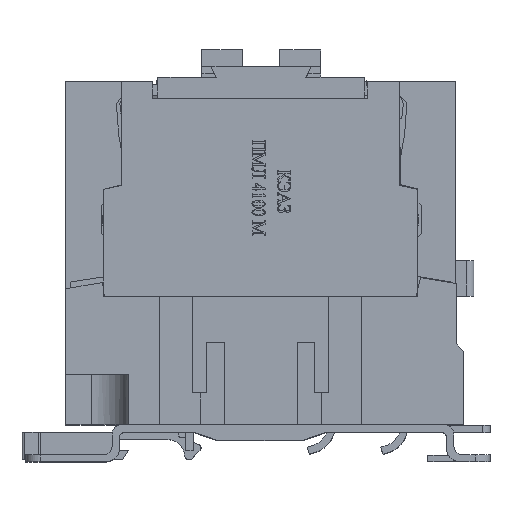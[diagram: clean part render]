
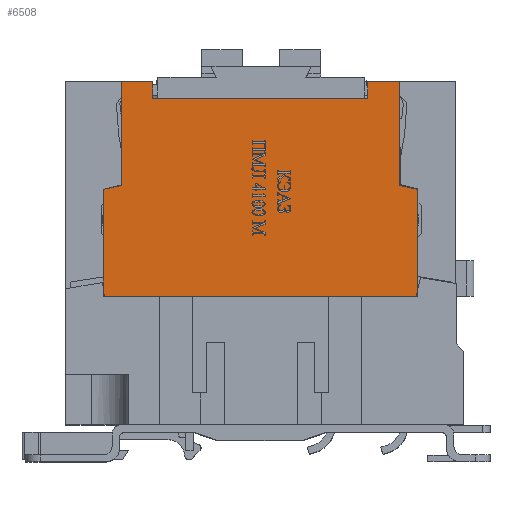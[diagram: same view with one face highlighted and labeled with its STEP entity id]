
A CAD part, top view. The second image highlights one B-rep face of the part: STEP entity #6508.
In plain terms, the highlighted planar face has unit normal (0, 0, 1).
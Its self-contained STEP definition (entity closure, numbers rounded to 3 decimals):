
#2215 = EDGE_LOOP ( 'NONE', ( #45894, #45896, #45895, #45897, #45898, #45899, #45900, #45901, #45903, #45902, #45904, #45905 ) ) ;
#5518 = VECTOR ( 'NONE', #15117, 1000. ) ;
#5588 = VECTOR ( 'NONE', #15441, 1000. ) ;
#6508 = ADVANCED_FACE ( 'NONE', ( #19148 ), #31573, .F. ) ;
#9083 = VERTEX_POINT ( 'NONE', #39651 ) ;
#9085 = VERTEX_POINT ( 'NONE', #39653 ) ;
#9088 = VERTEX_POINT ( 'NONE', #39656 ) ;
#9098 = VERTEX_POINT ( 'NONE', #39665 ) ;
#9099 = VERTEX_POINT ( 'NONE', #39666 ) ;
#9100 = VERTEX_POINT ( 'NONE', #39667 ) ;
#9101 = VERTEX_POINT ( 'NONE', #39668 ) ;
#9102 = VERTEX_POINT ( 'NONE', #39669 ) ;
#13703 = CARTESIAN_POINT ( 'NONE',  ( 23.75, 58.3, 0. ) ) ;
#13709 = CARTESIAN_POINT ( 'NONE',  ( 15.25, 58.3, 0. ) ) ;
#13743 = CARTESIAN_POINT ( 'NONE',  ( 95.7, 0., 0. ) ) ;
#13744 = CARTESIAN_POINT ( 'NONE',  ( 10.3, 0., 0. ) ) ;
#15115 = LINE ( 'NONE', #15116, #5518 ) ;
#15116 = CARTESIAN_POINT ( 'NONE',  ( 0., 0., 0. ) ) ;
#15117 = DIRECTION ( 'NONE',  ( 1., 0., 0. ) ) ;
#15439 = LINE ( 'NONE', #15440, #5588 ) ;
#15440 = CARTESIAN_POINT ( 'NONE',  ( 10.3, 0., 0. ) ) ;
#15441 = DIRECTION ( 'NONE',  ( 0., 1., 0. ) ) ;
#15494 = LINE ( 'NONE', #15496, #16531 ) ;
#15496 = CARTESIAN_POINT ( 'NONE',  ( 82.25, 53.8, 0. ) ) ;
#15497 = DIRECTION ( 'NONE',  ( 0., 1., 0. ) ) ;
#15523 = LINE ( 'NONE', #15524, #16543 ) ;
#15524 = CARTESIAN_POINT ( 'NONE',  ( 0., 58.3, 0. ) ) ;
#15525 = DIRECTION ( 'NONE',  ( 1., 0., 0. ) ) ;
#15529 = LINE ( 'NONE', #15530, #16545 ) ;
#15530 = CARTESIAN_POINT ( 'NONE',  ( 0., 58.3, 0. ) ) ;
#15531 = DIRECTION ( 'NONE',  ( 1., 0., 0. ) ) ;
#15552 = LINE ( 'NONE', #15553, #16552 ) ;
#15553 = CARTESIAN_POINT ( 'NONE',  ( 95.7, 29.038, 0. ) ) ;
#15554 = DIRECTION ( 'NONE',  ( 0.978, -0.21, 0. ) ) ;
#15618 = LINE ( 'NONE', #15619, #16575 ) ;
#15619 = CARTESIAN_POINT ( 'NONE',  ( 10.3, 29.038, 0. ) ) ;
#15620 = DIRECTION ( 'NONE',  ( 0.978, 0.21, 0. ) ) ;
#15740 = LINE ( 'NONE', #15741, #16620 ) ;
#15741 = CARTESIAN_POINT ( 'NONE',  ( 15.25, 58.3, 0. ) ) ;
#15742 = DIRECTION ( 'NONE',  ( 0., 1., 0. ) ) ;
#15756 = LINE ( 'NONE', #15757, #16628 ) ;
#15757 = CARTESIAN_POINT ( 'NONE',  ( 95.7, 0., 0. ) ) ;
#15758 = DIRECTION ( 'NONE',  ( 0., 1., 0. ) ) ;
#16297 = LINE ( 'NONE', #16298, #16686 ) ;
#16298 = CARTESIAN_POINT ( 'NONE',  ( 23.75, 53.8, 0. ) ) ;
#16299 = DIRECTION ( 'NONE',  ( 1., 0., 0. ) ) ;
#16331 = LINE ( 'NONE', #16332, #16698 ) ;
#16332 = CARTESIAN_POINT ( 'NONE',  ( 90.75, 58.3, 0. ) ) ;
#16333 = DIRECTION ( 'NONE',  ( 0., -1., 0. ) ) ;
#16367 = LINE ( 'NONE', #16368, #16710 ) ;
#16368 = CARTESIAN_POINT ( 'NONE',  ( 23.75, 53.8, 0. ) ) ;
#16369 = DIRECTION ( 'NONE',  ( 0., -1., 0. ) ) ;
#16531 = VECTOR ( 'NONE', #15497, 1000. ) ;
#16543 = VECTOR ( 'NONE', #15525, 1000. ) ;
#16545 = VECTOR ( 'NONE', #15531, 1000. ) ;
#16552 = VECTOR ( 'NONE', #15554, 1000. ) ;
#16575 = VECTOR ( 'NONE', #15620, 1000. ) ;
#16620 = VECTOR ( 'NONE', #15742, 1000. ) ;
#16628 = VECTOR ( 'NONE', #15758, 1000. ) ;
#16686 = VECTOR ( 'NONE', #16299, 1000. ) ;
#16698 = VECTOR ( 'NONE', #16333, 1000. ) ;
#16710 = VECTOR ( 'NONE', #16369, 1000. ) ;
#19145 = AXIS2_PLACEMENT_3D ( 'NONE', #31574, #31575, #31576 ) ;
#19148 = FACE_OUTER_BOUND ( 'NONE', #2215, .T. ) ;
#31573 = PLANE ( 'NONE',  #19145 ) ;
#31574 = CARTESIAN_POINT ( 'NONE',  ( 0., 58.3, 0. ) ) ;
#31575 = DIRECTION ( 'NONE',  ( 0., 0., -1. ) ) ;
#31576 = DIRECTION ( 'NONE',  ( -1., 0., 0. ) ) ;
#39651 = CARTESIAN_POINT ( 'NONE',  ( 90.75, 58.3, 0. ) ) ;
#39653 = CARTESIAN_POINT ( 'NONE',  ( 90.75, 30.1, 0. ) ) ;
#39656 = CARTESIAN_POINT ( 'NONE',  ( 95.7, 29.038, 0. ) ) ;
#39665 = CARTESIAN_POINT ( 'NONE',  ( 82.25, 58.3, 0. ) ) ;
#39666 = CARTESIAN_POINT ( 'NONE',  ( 10.3, 29.038, 0. ) ) ;
#39667 = CARTESIAN_POINT ( 'NONE',  ( 82.25, 53.8, 0. ) ) ;
#39668 = CARTESIAN_POINT ( 'NONE',  ( 23.75, 53.8, 0. ) ) ;
#39669 = CARTESIAN_POINT ( 'NONE',  ( 15.25, 30.1, 0. ) ) ;
#42169 = VERTEX_POINT ( 'NONE', #13703 ) ;
#42175 = VERTEX_POINT ( 'NONE', #13709 ) ;
#42220 = VERTEX_POINT ( 'NONE', #13743 ) ;
#42221 = VERTEX_POINT ( 'NONE', #13744 ) ;
#43611 = EDGE_CURVE ( 'NONE', #42221, #42220, #15115, .T. ) ;
#43796 = EDGE_CURVE ( 'NONE', #42221, #9099, #15439, .T. ) ;
#43813 = EDGE_CURVE ( 'NONE', #9100, #9098, #15494, .T. ) ;
#43822 = EDGE_CURVE ( 'NONE', #42175, #42169, #15523, .T. ) ;
#43824 = EDGE_CURVE ( 'NONE', #9098, #9083, #15529, .T. ) ;
#43831 = EDGE_CURVE ( 'NONE', #9085, #9088, #15552, .T. ) ;
#43895 = EDGE_CURVE ( 'NONE', #9099, #9102, #15618, .T. ) ;
#44030 = EDGE_CURVE ( 'NONE', #9102, #42175, #15740, .T. ) ;
#44046 = EDGE_CURVE ( 'NONE', #42220, #9088, #15756, .T. ) ;
#44161 = EDGE_CURVE ( 'NONE', #9101, #9100, #16297, .T. ) ;
#44217 = EDGE_CURVE ( 'NONE', #9083, #9085, #16331, .T. ) ;
#44229 = EDGE_CURVE ( 'NONE', #42169, #9101, #16367, .T. ) ;
#45894 = ORIENTED_EDGE ( 'NONE', *, *, #43831, .F. ) ;
#45895 = ORIENTED_EDGE ( 'NONE', *, *, #43824, .F. ) ;
#45896 = ORIENTED_EDGE ( 'NONE', *, *, #44217, .F. ) ;
#45897 = ORIENTED_EDGE ( 'NONE', *, *, #43813, .F. ) ;
#45898 = ORIENTED_EDGE ( 'NONE', *, *, #44161, .F. ) ;
#45899 = ORIENTED_EDGE ( 'NONE', *, *, #44229, .F. ) ;
#45900 = ORIENTED_EDGE ( 'NONE', *, *, #43822, .F. ) ;
#45901 = ORIENTED_EDGE ( 'NONE', *, *, #44030, .F. ) ;
#45902 = ORIENTED_EDGE ( 'NONE', *, *, #43796, .F. ) ;
#45903 = ORIENTED_EDGE ( 'NONE', *, *, #43895, .F. ) ;
#45904 = ORIENTED_EDGE ( 'NONE', *, *, #43611, .T. ) ;
#45905 = ORIENTED_EDGE ( 'NONE', *, *, #44046, .T. ) ;
